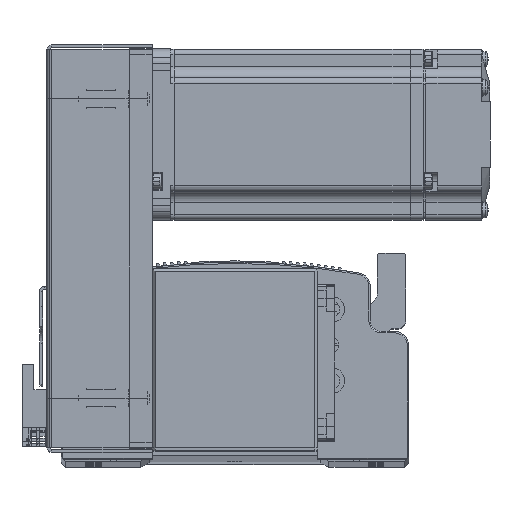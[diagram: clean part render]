
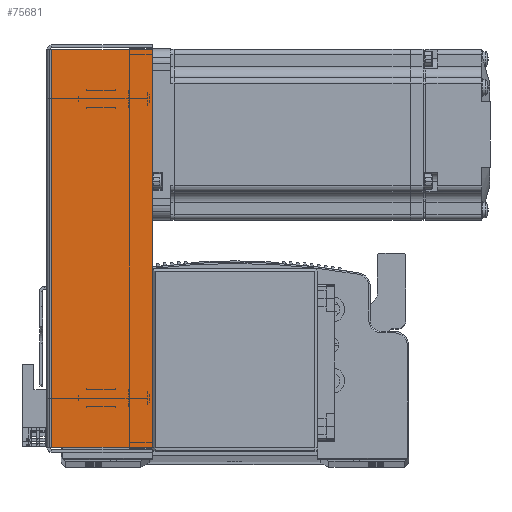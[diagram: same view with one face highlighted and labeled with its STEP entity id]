
A CAD part, top view. The second image highlights one B-rep face of the part: STEP entity #75681.
In plain terms, the highlighted planar face has unit normal (0, 0, 1) as drawn and (0, 0, -1) by its records, which use the part's own axes.
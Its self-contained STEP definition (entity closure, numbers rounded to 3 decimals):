
#7958 = LINE ( 'NONE', #39156, #7971 ) ;
#7971 = VECTOR ( 'NONE', #39145, 1000. ) ;
#8128 = LINE ( 'NONE', #35128, #8179 ) ;
#8156 = LINE ( 'NONE', #35100, #8166 ) ;
#8159 = VECTOR ( 'NONE', #35245, 1000. ) ;
#8166 = VECTOR ( 'NONE', #35256, 1000. ) ;
#8179 = VECTOR ( 'NONE', #35097, 1000. ) ;
#8185 = LINE ( 'NONE', #35212, #8159 ) ;
#18510 = PLANE ( 'NONE',  #23766 ) ;
#18515 = CARTESIAN_POINT ( 'NONE',  ( 0., 0., -33.5 ) ) ;
#18529 = DIRECTION ( 'NONE',  ( 0., 0., 1. ) ) ;
#18533 = DIRECTION ( 'NONE',  ( 0., -1., 0. ) ) ;
#23766 = AXIS2_PLACEMENT_3D ( 'NONE', #18515, #18529, #18533 ) ;
#35097 = DIRECTION ( 'NONE',  ( 1., 0., 0. ) ) ;
#35100 = CARTESIAN_POINT ( 'NONE',  ( 0., 36., -33.5 ) ) ;
#35128 = CARTESIAN_POINT ( 'NONE',  ( 71.5, 0.737, -33.5 ) ) ;
#35212 = CARTESIAN_POINT ( 'NONE',  ( 69.793, 0., -33.5 ) ) ;
#35245 = DIRECTION ( 'NONE',  ( 0., 1., 0. ) ) ;
#35256 = DIRECTION ( 'NONE',  ( 1., 0., 0. ) ) ;
#39145 = DIRECTION ( 'NONE',  ( 0., 1., 0. ) ) ;
#39156 = CARTESIAN_POINT ( 'NONE',  ( -69.793, 0., -33.5 ) ) ;
#42737 = VERTEX_POINT ( 'NONE', #46600 ) ;
#42749 = VERTEX_POINT ( 'NONE', #46572 ) ;
#42760 = VERTEX_POINT ( 'NONE', #46578 ) ;
#42773 = VERTEX_POINT ( 'NONE', #46635 ) ;
#46572 = CARTESIAN_POINT ( 'NONE',  ( -69.793, 36., -33.5 ) ) ;
#46578 = CARTESIAN_POINT ( 'NONE',  ( 69.793, 36., -33.5 ) ) ;
#46600 = CARTESIAN_POINT ( 'NONE',  ( 69.793, 0.737, -33.5 ) ) ;
#46635 = CARTESIAN_POINT ( 'NONE',  ( -69.793, 0.737, -33.5 ) ) ;
#64713 = EDGE_CURVE ( 'NONE', #42773, #42749, #7958, .T. ) ;
#64756 = EDGE_CURVE ( 'NONE', #42773, #42737, #8128, .T. ) ;
#64774 = EDGE_CURVE ( 'NONE', #42749, #42760, #8156, .T. ) ;
#64777 = EDGE_CURVE ( 'NONE', #42737, #42760, #8185, .T. ) ;
#70440 = FACE_OUTER_BOUND ( 'NONE', #71817, .T. ) ;
#71817 = EDGE_LOOP ( 'NONE', ( #73905, #73901, #74007, #74004 ) ) ;
#73901 = ORIENTED_EDGE ( 'NONE', *, *, #64713, .T. ) ;
#73905 = ORIENTED_EDGE ( 'NONE', *, *, #64756, .F. ) ;
#74004 = ORIENTED_EDGE ( 'NONE', *, *, #64777, .F. ) ;
#74007 = ORIENTED_EDGE ( 'NONE', *, *, #64774, .T. ) ;
#75681 = ADVANCED_FACE ( 'NONE', ( #70440 ), #18510, .F. ) ;
